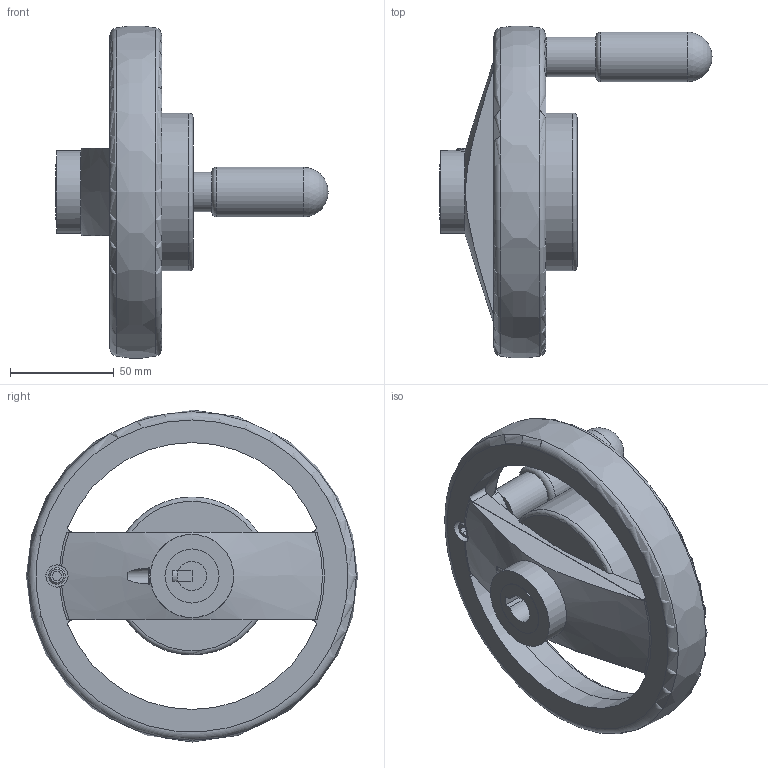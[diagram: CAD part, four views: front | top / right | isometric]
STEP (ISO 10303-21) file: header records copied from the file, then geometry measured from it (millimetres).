
FILE_DESCRIPTION( ( 'STEP AP203' ), '1' );
FILE_NAME( 'C:/Temp/Ganter_Step_05_03_2020/data/1_4/gn_522_8/gn_522_8_k/gn_522_8_k_d/Spoked handwheel GN 522.8-160-K14-D.stp', '2020-03-05T10:53:34', ( 'License CC BY-ND 4.0' ), ( 'CADENAS' ), ' ', 'PARTsolutions', ' ' );
FILE_SCHEMA( ( 'CONFIG_CONTROL_DESIGN' ) );
Length unit declared in the file: millimetre
Products named in the file (1): _Spoked handwheel GN 522.8-160-K14-D
Bounding box: 131 x 159.78 x 159.78 mm (x, y, z)
Volume: 322205.1 mm3; surface area: 78308.7 mm2
Topology: 1 solids, 1 shells, 105 faces, 270 edges, 176 vertices
Faces by surface type: plane 54, cylinder 31, cone 9, torus 9, sphere 1, bspline 1
Full cylindrical faces by diameter (mm): 6 x4, 8 x1, 10.667 x1, 14.25 x1, 19 x1, 24 x1, 26 x1, 40 x1, 67 x1, 68.8 x1, 76 x1
Entity records: 3461 total; most frequent: CARTESIAN_POINT 1051, DIRECTION 476, ORIENTED_EDGE 464, EDGE_CURVE 232, AXIS2_PLACEMENT_3D 191, VERTEX_POINT 164, EDGE_LOOP 149, FACE_OUTER_BOUND 125
